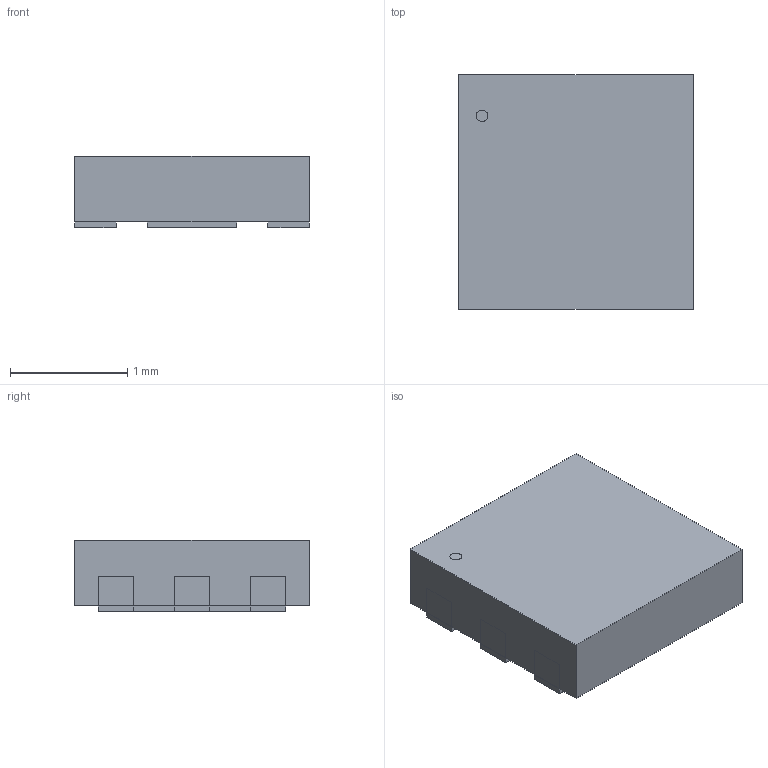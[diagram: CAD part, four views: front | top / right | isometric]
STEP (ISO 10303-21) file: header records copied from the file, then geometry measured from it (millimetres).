
FILE_DESCRIPTION(('STEP AP214'),'1');
FILE_NAME('TDFN-6_MCL','2025-04-02T05:04:49',(''),(''),'','','');
FILE_SCHEMA(('AUTOMOTIVE_DESIGN'));
Length unit declared in the file: millimetre
Products named in the file (1): product
Bounding box: 2.01 x 2.01 x 0.61 mm (x, y, z)
Volume: 2.3 mm3; surface area: 17.6 mm2
Topology: 9 solids, 9 shells, 63 faces, 123 edges, 78 vertices
Faces by surface type: plane 62, cylinder 1
Full cylindrical faces by diameter (mm): 0.1 x1
Entity records: 1753 total; most frequent: ORIENTED_EDGE 268, DIRECTION 266, CARTESIAN_POINT 157, EDGE_CURVE 134, LINE 132, VECTOR 132, VERTEX_POINT 90, AXIS2_PLACEMENT_3D 67
